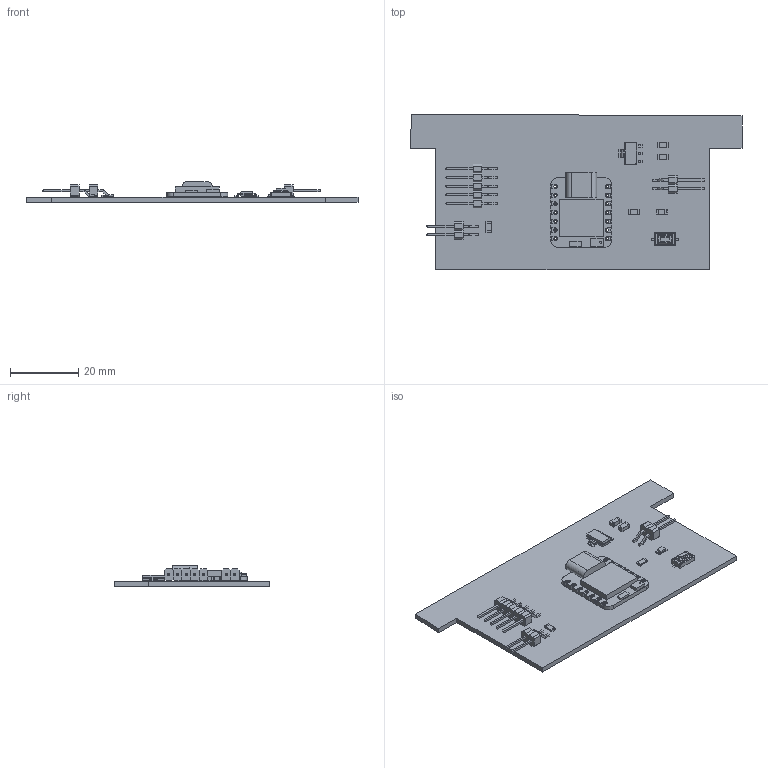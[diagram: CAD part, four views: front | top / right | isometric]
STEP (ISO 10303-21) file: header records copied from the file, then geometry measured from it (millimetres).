
FILE_DESCRIPTION(('KiCad electronic assembly'),'2;1');
FILE_NAME('Circuitstep.step','2026-03-04T02:36:01',('Pcbnew'),('Kicad'), 'Open CASCADE STEP processor 7.9','KiCad to STEP converter','Unknown' );
FILE_SCHEMA(('AUTOMOTIVE_DESIGN { 1 0 10303 214 1 1 1 1 }'));
Length unit declared in the file: millimetre
Products named in the file (50): Circuitstep 1; Seeed_XIAO-nRF52840_Sense; SoC_nRF_Sense; Mic_nRF_Sense; Antenna_nRF_Sense; XIAO_Generic; Board; USB; Contact; Contact Clones; Body007; Body008; Body009; Body010; Body011; Body012; Body013; Body014; Body015; Body016; Body017; Body018; Body019; Capacitor-1206; Body; ContactClone; Header_SMD_01x05_P2.54mm_Horizontal_Male; Circuitstep 1.3.1; Circuitstep 1.3.2; Header_SMD_01x02_P2.54mm_Horizontal_Male; Circuitstep 1.4.1; Circuitstep 1.4.2; SOT-223; Resistor-1206; Ceramic; Contacts; Contacts (Mirror #1); Overcoat; Switch_CnK-PTS636SM25FSMTR; LeadA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
Assembly tree (52 placements, depth 5):
  Circuitstep 1
    Seeed_XIAO-nRF52840_Sense
      SoC_nRF_Sense
      Mic_nRF_Sense
      Antenna_nRF_Sense
      XIAO_Generic
        Board
        USB
        Contact
        Contact Clones
          Body007
          Body008
          Body009
          Body010
          Body011
          Body012
          Body013
          Body014
          Body015
          Body016
          Body017
          Body018
          Body019
    Capacitor-1206  x2
      Body
      Contact
      ContactClone
    Header_SMD_01x05_P2.54mm_Horizontal_Male
      Circuitstep 1.3.1
      Circuitstep 1.3.2
    Header_SMD_01x02_P2.54mm_Horizontal_Male  x2
      Circuitstep 1.4.1
      Circuitstep 1.4.2
    SOT-223
    Resistor-1206  x2
      Ceramic
      Contacts
      Contacts (Mirror #1)
      Overcoat
    Switch_CnK-PTS636SM25FSMTR
      LeadA
      LeadB
      Cover
      Button
    LED-1206
      Base
      Emmiter
      Contact_1
      Contact_2
    Circuito_PCB
Bounding box: 97 x 45.5 x 6.05 mm (x, y, z)
Volume: 6865.2 mm3; surface area: 10993.9 mm2
Topology: 61 solids, 61 shells, 1006 faces, 2384 edges, 1497 vertices
Faces by surface type: plane 779, cylinder 185, revolution 18, bspline 16, sphere 8
Full cylindrical faces by diameter (mm): 0.5 x1, 0.7 x14, 0.8 x42
Entity records: 27367 total; most frequent: CARTESIAN_POINT 4906, DIRECTION 4257, ORIENTED_EDGE 4175, EDGE_CURVE 2088, LINE 1655, VECTOR 1655, VERTEX_POINT 1321, AXIS2_PLACEMENT_3D 1294
